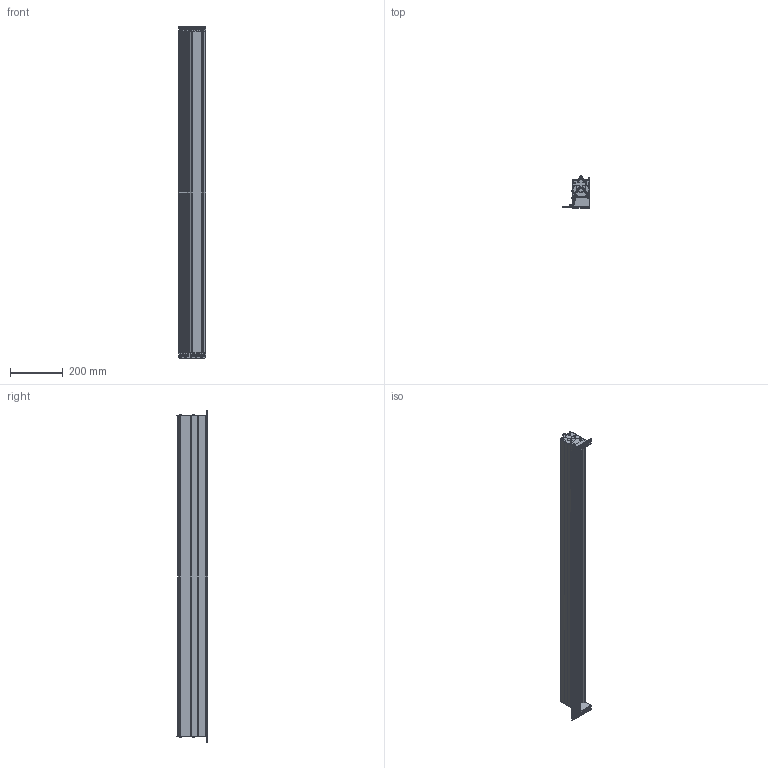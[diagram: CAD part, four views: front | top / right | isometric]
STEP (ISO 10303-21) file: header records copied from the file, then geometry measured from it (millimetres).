
FILE_DESCRIPTION (( 'STEP AP214' ), '1' );
FILE_NAME ('60PTLP-RPT-RML.STEP', '2023-02-13T21:27:16', ( '' ), ( '' ), 'SwSTEP 2.0', 'SolidWorks 2021', '' );
FILE_SCHEMA (( 'AUTOMOTIVE_DESIGN' ));
Length unit declared in the file: inch
Products named in the file (22): 710-10416-300_2'' for joiner drawing suspended; 310-10159-101_92005A218; 410-20037; 60PTLP-RPT-RML; 730-10066; 730-20910-100; Mirror410-20037; 710-10424-300_710-10424-300-4''; 310-10029-101_92005A112; 610-20805-930-74.6MM; ProTools Linear plaster end cap C; ProTools Linear Perimeter Housing Assemblies_Perimeter Plaster; 330-10009-400; ProTools Perimeter plaster end cap A; ProTools Linear Perimeter GT_RML 4''; 730-20909-100; 310-10020-101_310-10020-101; 710-10422-303-SA_710-10422-303-4''; 730-20959-101; 710-10430-400_710-10430-400-4''; 310-10040-101_310-10040-101
Assembly tree (56 placements, depth 4):
  60PTLP-RPT-RML
    ProTools Linear Perimeter Housing Assemblies_Perimeter Plaster
      710-10416-300_2'' for joiner drawing suspended
      730-20909-100
        ProTools Perimeter plaster end cap A
        ProTools Linear plaster end cap C
      730-20910-100
        ProTools Perimeter plaster end cap A
        ProTools Linear plaster end cap C
      310-10040-101_310-10040-101  x6
    ProTools Linear Perimeter GT_RML 4''
      710-10422-303-SA_710-10422-303-4''
      710-10424-300_710-10424-300-4''
      310-10029-101_92005A112  x5
      710-10430-400_710-10430-400-4''
      310-10159-101_92005A218
      330-10009-400
      310-10020-101_310-10020-101  x8
      730-20959-101  x2
      730-10066  x2
      410-20037
        410-20037
        Mirror410-20037
      610-20805-930-74.6MM  x16
Bounding box: 102.76 x 120.95 x 1262.2 mm (x, y, z)
Volume: 1798778.1 mm3; surface area: 1878028.8 mm2
Topology: 51 solids, 51 shells, 4774 faces, 12711 edges, 8399 vertices
Faces by surface type: plane 2791, cylinder 1524, bspline 178, cone 159, torus 94, sphere 28
Entity records: 57692 total; most frequent: CARTESIAN_POINT 15579, ORIENTED_EDGE 8634, DIRECTION 8108, EDGE_CURVE 4317, VERTEX_POINT 2856, AXIS2_PLACEMENT_3D 2716, VECTOR 2676, LINE 2676
